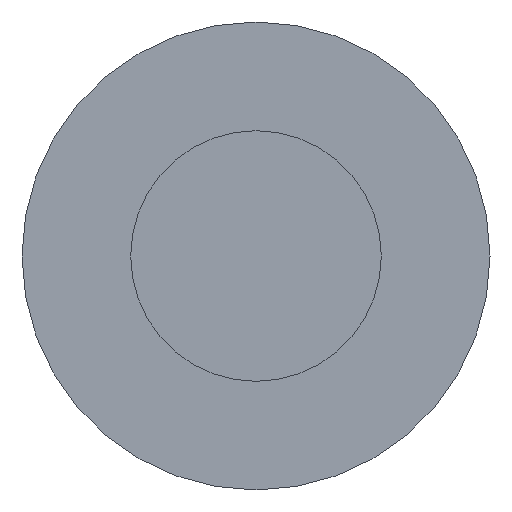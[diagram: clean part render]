
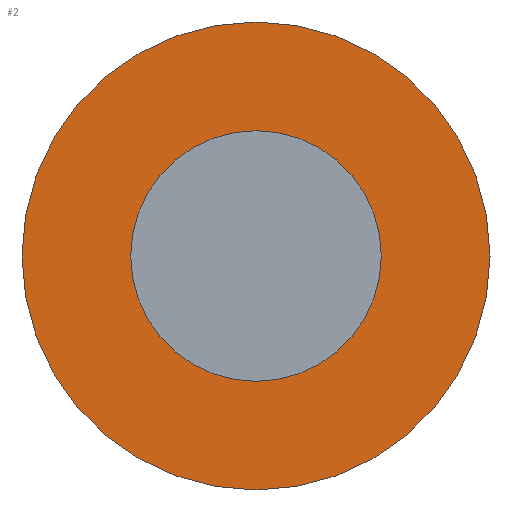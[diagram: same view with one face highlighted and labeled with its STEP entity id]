
A CAD part, front view. The second image highlights one B-rep face of the part: STEP entity #2.
In plain terms, the highlighted planar face has unit normal (0, -1, 0).
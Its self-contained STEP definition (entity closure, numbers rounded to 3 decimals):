
#2 = ADVANCED_FACE ( 'NONE', ( #45, #87 ), #243, .F. ) ;
#14 = EDGE_CURVE ( 'NONE', #202, #262, #131, .T. ) ;
#15 = AXIS2_PLACEMENT_3D ( 'NONE', #167, #143, #263 ) ;
#17 = EDGE_CURVE ( 'NONE', #238, #258, #130, .T. ) ;
#24 = AXIS2_PLACEMENT_3D ( 'NONE', #272, #267, #158 ) ;
#28 = EDGE_CURVE ( 'NONE', #258, #238, #119, .T. ) ;
#30 = AXIS2_PLACEMENT_3D ( 'NONE', #244, #246, #245 ) ;
#33 = EDGE_CURVE ( 'NONE', #262, #202, #138, .T. ) ;
#45 = FACE_BOUND ( 'NONE', #52, .T. ) ;
#52 = EDGE_LOOP ( 'NONE', ( #70, #80 ) ) ;
#58 = EDGE_LOOP ( 'NONE', ( #79, #77 ) ) ;
#70 = ORIENTED_EDGE ( 'NONE', *, *, #17, .F. ) ;
#77 = ORIENTED_EDGE ( 'NONE', *, *, #14, .T. ) ;
#79 = ORIENTED_EDGE ( 'NONE', *, *, #33, .T. ) ;
#80 = ORIENTED_EDGE ( 'NONE', *, *, #28, .F. ) ;
#87 = FACE_OUTER_BOUND ( 'NONE', #58, .T. ) ;
#119 = CIRCLE ( 'NONE', #289, 1.875 ) ;
#130 = CIRCLE ( 'NONE', #15, 1.875 ) ;
#131 = CIRCLE ( 'NONE', #24, 3.5 ) ;
#138 = CIRCLE ( 'NONE', #275, 3.5 ) ;
#143 = DIRECTION ( 'NONE',  ( 0., -1., 0. ) ) ;
#158 = DIRECTION ( 'NONE',  ( 1., 0., 0. ) ) ;
#167 = CARTESIAN_POINT ( 'NONE',  ( 0., 0.6, 0. ) ) ;
#171 = CARTESIAN_POINT ( 'NONE',  ( 3.5, 0.6, 0. ) ) ;
#177 = CARTESIAN_POINT ( 'NONE',  ( -3.5, 0.6, 0. ) ) ;
#180 = CARTESIAN_POINT ( 'NONE',  ( -1.875, 0.6, 0. ) ) ;
#188 = CARTESIAN_POINT ( 'NONE',  ( 0., 0.6, 0. ) ) ;
#191 = DIRECTION ( 'NONE',  ( 0., -1., 0. ) ) ;
#192 = DIRECTION ( 'NONE',  ( 1., 0., 0. ) ) ;
#193 = CARTESIAN_POINT ( 'NONE',  ( 1.875, 0.6, 0. ) ) ;
#194 = DIRECTION ( 'NONE',  ( 0., -1., 0. ) ) ;
#195 = DIRECTION ( 'NONE',  ( 1., 0., 0. ) ) ;
#202 = VERTEX_POINT ( 'NONE', #177 ) ;
#204 = CARTESIAN_POINT ( 'NONE',  ( 0., 0.6, 0. ) ) ;
#238 = VERTEX_POINT ( 'NONE', #193 ) ;
#243 = PLANE ( 'NONE',  #30 ) ;
#244 = CARTESIAN_POINT ( 'NONE',  ( -3.5, 0.6, 0. ) ) ;
#245 = DIRECTION ( 'NONE',  ( -1., 0., 0. ) ) ;
#246 = DIRECTION ( 'NONE',  ( 0., 1., 0. ) ) ;
#258 = VERTEX_POINT ( 'NONE', #180 ) ;
#262 = VERTEX_POINT ( 'NONE', #171 ) ;
#263 = DIRECTION ( 'NONE',  ( 1., 0., 0. ) ) ;
#267 = DIRECTION ( 'NONE',  ( 0., -1., 0. ) ) ;
#272 = CARTESIAN_POINT ( 'NONE',  ( 0., 0.6, 0. ) ) ;
#275 = AXIS2_PLACEMENT_3D ( 'NONE', #188, #191, #192 ) ;
#289 = AXIS2_PLACEMENT_3D ( 'NONE', #204, #194, #195 ) ;
